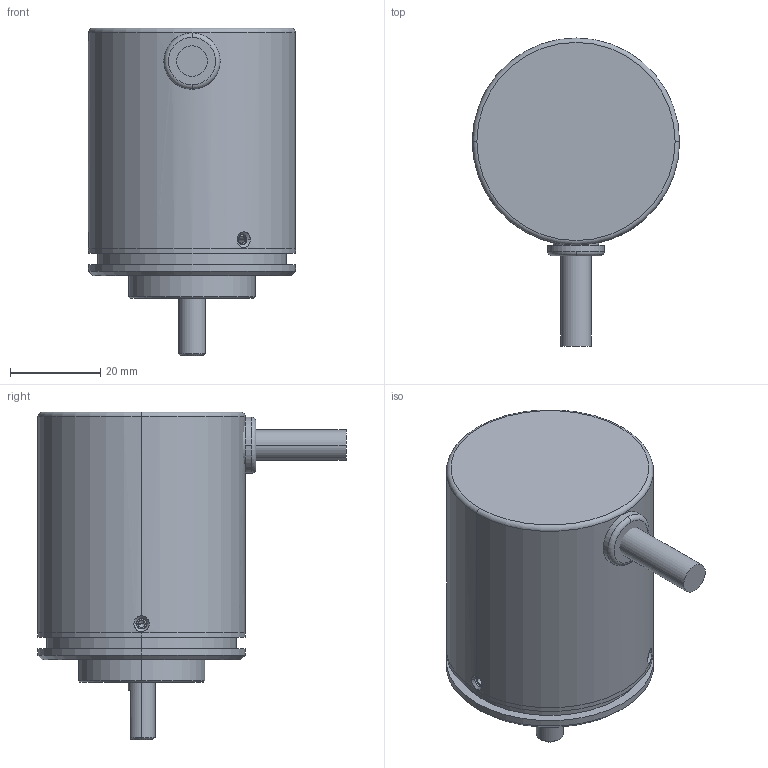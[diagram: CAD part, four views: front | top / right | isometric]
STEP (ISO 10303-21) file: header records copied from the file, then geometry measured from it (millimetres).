
FILE_DESCRIPTION(('STEP AP203'),'1');
FILE_NAME('C:/Users/MTL/Desktop/MXS-36.step','2017-06-19T06:25:32',(' '),(' '),'Spatial InterOp 3D',' ',' ');
FILE_SCHEMA(('CONFIG_CONTROL_DESIGN'));
Length unit declared in the file: millimetre
Products named in the file (11): 1; 2; 3; 4; 5; 6; 7; 8; 9; 10; 11
Bounding box: 46 x 68.4 x 72.8 mm (x, y, z)
Volume: 30967.2 mm3; surface area: 30109.9 mm2
Topology: 11 solids, 11 shells, 160 faces, 354 edges, 220 vertices
Faces by surface type: cylinder 90, plane 37, cone 25, torus 8
Entity records: 5384 total; most frequent: CARTESIAN_POINT 1268, DIRECTION 840, ORIENTED_EDGE 684, AXIS2_PLACEMENT_3D 360, EDGE_CURVE 342, VERTEX_POINT 220, EDGE_LOOP 200, CIRCLE 189
